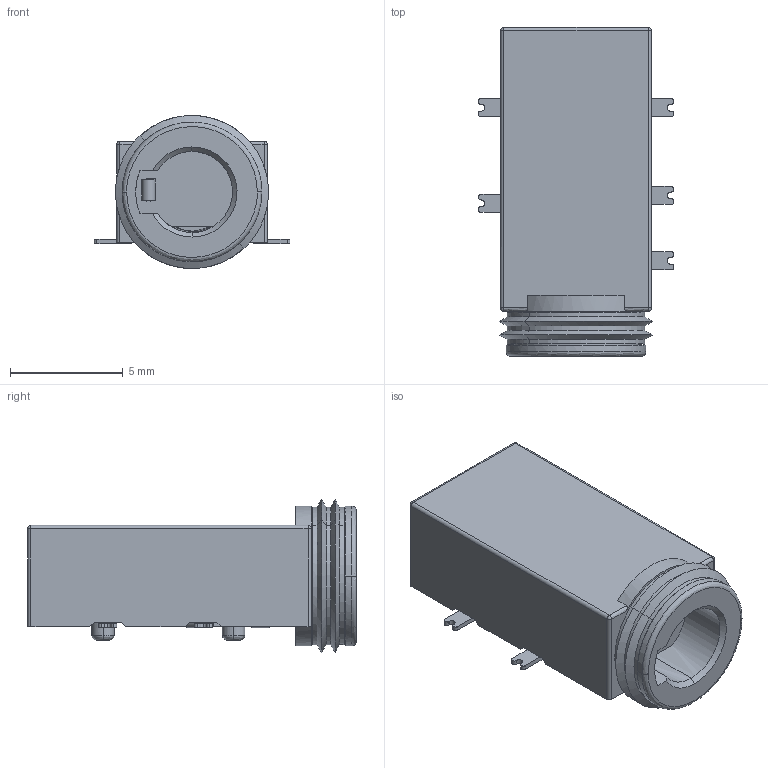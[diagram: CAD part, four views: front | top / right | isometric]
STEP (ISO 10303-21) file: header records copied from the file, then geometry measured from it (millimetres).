
FILE_DESCRIPTION (( 'STEP AP214' ), '1' );
FILE_NAME ('PJ35A025-05SF.STEP', '2026-07-30T02:53:08', ( '' ), ( '' ), 'SwSTEP 2.0', 'SolidWorks 2024', '' );
FILE_SCHEMA (( 'AUTOMOTIVE_DESIGN' ));
Length unit declared in the file: millimetre
Products named in the file (1): PJ35A025-05SF
Bounding box: 8.7 x 14.6 x 6.8 mm (x, y, z)
Volume: 424 mm3; surface area: 841.4 mm2
Topology: 8 solids, 8 shells, 676 faces, 1747 edges, 1079 vertices
Faces by surface type: bspline 676
Entity records: 21400 total; most frequent: CARTESIAN_POINT 11096, ORIENTED_EDGE 3462, EDGE_CURVE 1731, B_SPLINE_CURVE_WITH_KNOTS 1445, VERTEX_POINT 1079, EDGE_LOOP 688, FACE_OUTER_BOUND 676, ADVANCED_FACE 676
